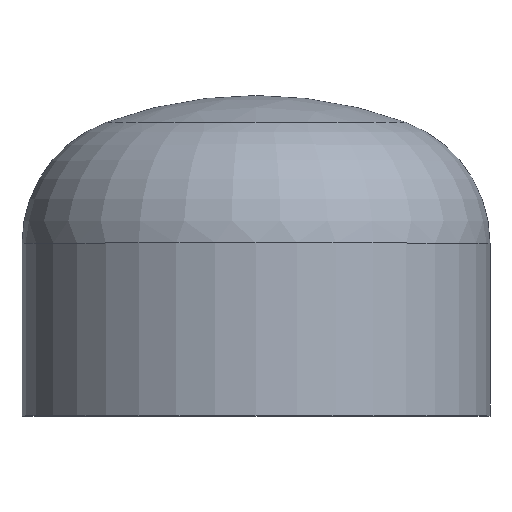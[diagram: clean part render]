
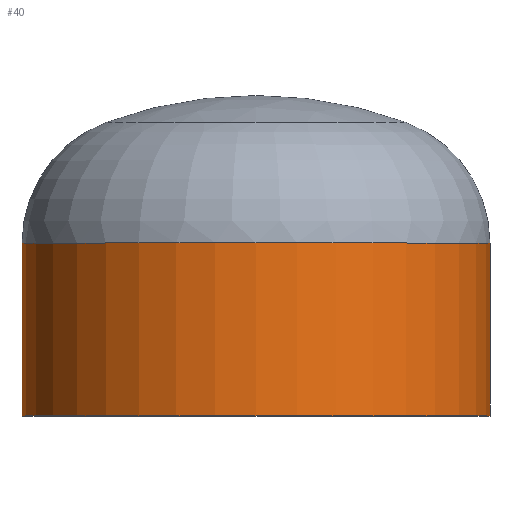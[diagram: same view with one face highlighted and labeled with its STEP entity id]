
A CAD part, top view. The second image highlights one B-rep face of the part: STEP entity #40.
In plain terms, the highlighted cylindrical face has radius 203.2 mm (diameter 406.4 mm), a partial arc.
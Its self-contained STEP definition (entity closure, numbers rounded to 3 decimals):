
#16 = EDGE_LOOP ( 'NONE', ( #43, #237, #151, #144 ) ) ;
#40 = ADVANCED_FACE ( 'NONE', ( #359 ), #403, .T. ) ;
#43 = ORIENTED_EDGE ( 'NONE', *, *, #108, .T. ) ;
#44 = VERTEX_POINT ( 'NONE', #233 ) ;
#50 = AXIS2_PLACEMENT_3D ( 'NONE', #245, #243, #242 ) ;
#90 = AXIS2_PLACEMENT_3D ( 'NONE', #248, #260, #238 ) ;
#96 = AXIS2_PLACEMENT_3D ( 'NONE', #301, #172, #188 ) ;
#104 = EDGE_CURVE ( 'NONE', #295, #129, #158, .T. ) ;
#108 = EDGE_CURVE ( 'NONE', #44, #295, #215, .T. ) ;
#114 = EDGE_CURVE ( 'NONE', #44, #143, #287, .T. ) ;
#129 = VERTEX_POINT ( 'NONE', #275 ) ;
#143 = VERTEX_POINT ( 'NONE', #251 ) ;
#144 = ORIENTED_EDGE ( 'NONE', *, *, #114, .F. ) ;
#151 = ORIENTED_EDGE ( 'NONE', *, *, #261, .F. ) ;
#158 = LINE ( 'NONE', #219, #280 ) ;
#159 = CARTESIAN_POINT ( 'NONE',  ( -203.2, 150., 0. ) ) ;
#172 = DIRECTION ( 'NONE',  ( 0., -1., 0. ) ) ;
#188 = DIRECTION ( 'NONE',  ( 1., 0., 0. ) ) ;
#189 = CARTESIAN_POINT ( 'NONE',  ( 203.2, 0., 0. ) ) ;
#215 = CIRCLE ( 'NONE', #96, 203.2 ) ;
#219 = CARTESIAN_POINT ( 'NONE',  ( -203.2, 0., 0. ) ) ;
#221 = DIRECTION ( 'NONE',  ( 0., -1., 0. ) ) ;
#233 = CARTESIAN_POINT ( 'NONE',  ( 203.2, 150., 0. ) ) ;
#237 = ORIENTED_EDGE ( 'NONE', *, *, #104, .T. ) ;
#238 = DIRECTION ( 'NONE',  ( 1., 0., 0. ) ) ;
#242 = DIRECTION ( 'NONE',  ( 1., 0., 0. ) ) ;
#243 = DIRECTION ( 'NONE',  ( 0., -1., 0. ) ) ;
#245 = CARTESIAN_POINT ( 'NONE',  ( 0., 0., 0. ) ) ;
#248 = CARTESIAN_POINT ( 'NONE',  ( 0., 0., 0. ) ) ;
#250 = CIRCLE ( 'NONE', #50, 203.2 ) ;
#251 = CARTESIAN_POINT ( 'NONE',  ( 203.2, 0., 0. ) ) ;
#260 = DIRECTION ( 'NONE',  ( 0., -1., 0. ) ) ;
#261 = EDGE_CURVE ( 'NONE', #143, #129, #250, .T. ) ;
#269 = VECTOR ( 'NONE', #340, 1000. ) ;
#275 = CARTESIAN_POINT ( 'NONE',  ( -203.2, 0., 0. ) ) ;
#280 = VECTOR ( 'NONE', #221, 1000. ) ;
#287 = LINE ( 'NONE', #189, #269 ) ;
#295 = VERTEX_POINT ( 'NONE', #159 ) ;
#301 = CARTESIAN_POINT ( 'NONE',  ( 0., 150., 0. ) ) ;
#340 = DIRECTION ( 'NONE',  ( 0., -1., 0. ) ) ;
#359 = FACE_OUTER_BOUND ( 'NONE', #16, .T. ) ;
#403 = CYLINDRICAL_SURFACE ( 'NONE', #90, 203.2 ) ;
